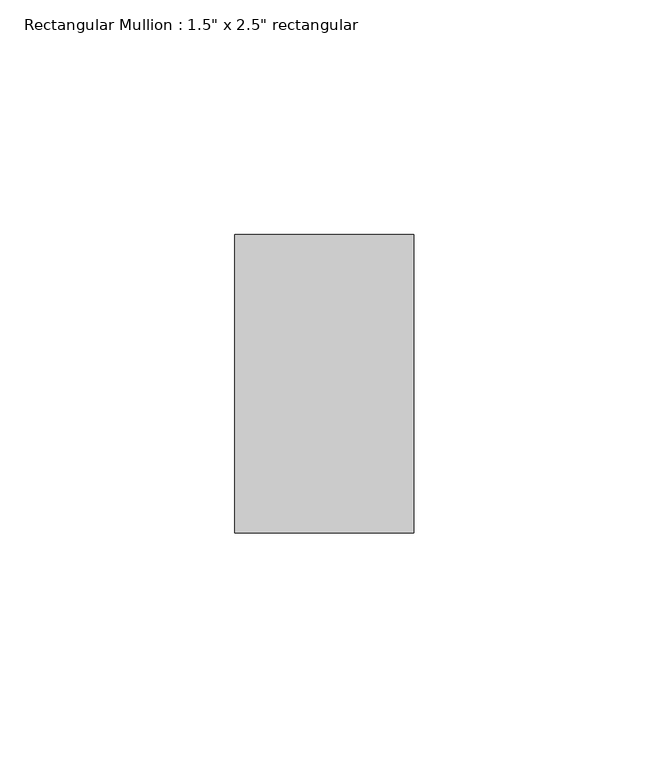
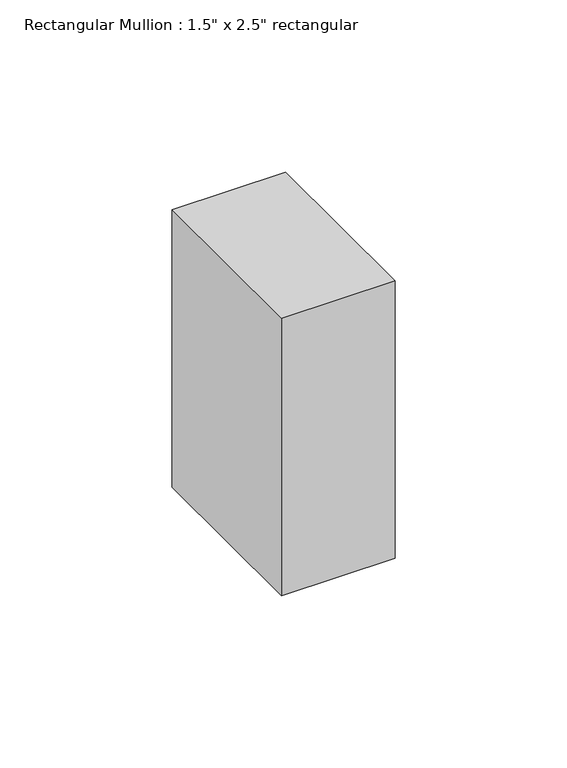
"""IFC4 building model written with IfcOpenShell, lengths in millimetres: member geometry."""

import ifcopenshell
import ifcopenshell.guid

model = None  # the IFC model being written
_history = None  # IfcOwnerHistory: only IFC2X3 demands one
_inside = {}  # id of a spatial element -> (the spatial element, [elements in it])
_under = {}  # id of a project, library or spatial element -> (it, [spatial elements below it])
_declared = {}  # id of a project -> (the project, [libraries it declares])
_typed = {}  # id of a type object -> (the type object, [elements of that type])
_made_of = {}  # id of a material, layer set ... -> (it, [elements and type objects made of it])


def new_model(schema):
    """Start an empty IFC model of exactly this schema.

    Asked for "IFC4X3", IfcOpenShell would pick the latest addendum, in which some entities
    have other attributes; the version numbers below select the first issue.
    IFC2X3 requires an IfcOwnerHistory on every rooted entity: one is made here for all.
    """
    global model, _history
    if schema == "IFC4X3":
        model = ifcopenshell.file(schema_version=(4, 3, 0, 0))
    else:
        model = ifcopenshell.file(schema=schema)
    _inside.clear()
    _under.clear()
    _declared.clear()
    _typed.clear()
    _made_of.clear()
    _history = None
    if model.schema == "IFC2X3":
        org = make("IfcOrganization", Name="unknown")
        user = make(
            "IfcPersonAndOrganization",
            ThePerson=make("IfcPerson", FamilyName="unknown"),
            TheOrganization=org,
        )
        app = make(
            "IfcApplication",
            ApplicationDeveloper=org,
            Version="unknown",
            ApplicationFullName="unknown",
            ApplicationIdentifier="unknown",
        )
        _history = make(
            "IfcOwnerHistory",
            OwningUser=user,
            OwningApplication=app,
            ChangeAction="ADDED",
            CreationDate=0,
        )
    return model


def make(cls, **values):
    """One entity of the class cls with the attributes given. An attribute that is None is left unset."""
    return model.create_entity(
        cls, **{name: value for name, value in values.items() if value is not None}
    )


def rooted(cls, **values):
    """An entity with a GlobalId (a new one), such as an element, a storey or a relation."""
    return make(cls, GlobalId=ifcopenshell.guid.new(), OwnerHistory=_history, **values)


def si_unit(unit_type, name, prefix=None):
    """IfcSIUnit, for example si_unit("LENGTHUNIT", "METRE", prefix="MILLI")."""
    return make("IfcSIUnit", UnitType=unit_type, Prefix=prefix, Name=name)


def assignment(units):
    """IfcUnitAssignment: the units of a project."""
    return None if units is None else make("IfcUnitAssignment", Units=units)


def point(xyz):
    """IfcCartesianPoint."""
    return None if xyz is None else make("IfcCartesianPoint", Coordinates=xyz)


def direction(xyz):
    """IfcDirection."""
    return None if xyz is None else make("IfcDirection", DirectionRatios=xyz)


def frame(location, z_axis=None, x_axis=None):
    """IfcAxis2Placement3D, a coordinate frame: its origin and axes. An axis left out is left unset."""
    return make(
        "IfcAxis2Placement3D",
        Location=point(location),
        Axis=direction(z_axis),
        RefDirection=direction(x_axis),
    )


def origin():
    """The frame at (0, 0, 0) with its axes left unset."""
    return frame((0.0, 0.0, 0.0))


def place(relative_to, where):
    """IfcLocalPlacement: puts the frame where relative to a parent placement (None: the world)."""
    return make(
        "IfcLocalPlacement", PlacementRelTo=relative_to, RelativePlacement=where
    )


def context(
    kind, dimensions, precision=None, world=None, true_north=None, identifier=None
):
    """IfcGeometricRepresentationContext, for example the 3D "Model" context."""
    return make(
        "IfcGeometricRepresentationContext",
        ContextIdentifier=identifier,
        ContextType=kind,
        CoordinateSpaceDimension=dimensions,
        Precision=precision,
        WorldCoordinateSystem=world,
        TrueNorth=true_north,
    )


def project(units=None, contexts=None):
    """IfcProject with its units and contexts."""
    return rooted(
        "IfcProject",
        Name="project",
        RepresentationContexts=contexts,
        UnitsInContext=assignment(units),
    )


def spatial(cls, under=None, at=None, **own):
    """A site, building, storey or space (cls), placed at a placement, below another one or the project."""
    s = rooted(cls, ObjectPlacement=at, **own)
    if under is not None:
        _under.setdefault(under.id(), (under, []))[1].append(s)
    return s


def polyline(points):
    """IfcPolyline through the points."""
    return make("IfcPolyline", Points=[point(p) for p in points])


def outline(outer, holes=None, kind="AREA"):
    """IfcArbitraryClosedProfileDef: a profile drawn as a closed curve; with holes, ...WithVoids."""
    if holes is None:
        return make("IfcArbitraryClosedProfileDef", ProfileType=kind, OuterCurve=outer)
    return make(
        "IfcArbitraryProfileDefWithVoids",
        ProfileType=kind,
        OuterCurve=outer,
        InnerCurves=holes,
    )


def extrude(swept, where, along, depth):
    """IfcExtrudedAreaSolid: the profile swept, set in the frame where, extruded along a direction by depth."""
    return make(
        "IfcExtrudedAreaSolid",
        SweptArea=swept,
        Position=where,
        ExtrudedDirection=direction(along),
        Depth=depth,
    )


def shape(context_of_items, identifier, shape_type, items):
    """IfcShapeRepresentation: the items that make up one representation, for example the "Body"."""
    return make(
        "IfcShapeRepresentation",
        ContextOfItems=context_of_items,
        RepresentationIdentifier=identifier,
        RepresentationType=shape_type,
        Items=items,
    )


def source(mapping_origin, context_of_items, identifier, shape_type, items):
    """IfcRepresentationMap: a shape defined once, which mapped items show again and again."""
    return make(
        "IfcRepresentationMap",
        MappingOrigin=mapping_origin,
        MappedRepresentation=shape(context_of_items, identifier, shape_type, items),
    )


def transform(
    local_origin,
    x_axis=None,
    y_axis=None,
    z_axis=None,
    scale=None,
    scale2=None,
    scale3=None,
    uniform=True,
):
    """IfcCartesianTransformationOperator3D, or its non-uniform kind. x_axis, y_axis, z_axis: its Axis1, 2, 3."""
    if uniform:
        return make(
            "IfcCartesianTransformationOperator3D",
            Axis1=direction(x_axis),
            Axis2=direction(y_axis),
            LocalOrigin=point(local_origin),
            Scale=scale,
            Axis3=direction(z_axis),
        )
    return make(
        "IfcCartesianTransformationOperator3DnonUniform",
        Axis1=direction(x_axis),
        Axis2=direction(y_axis),
        LocalOrigin=point(local_origin),
        Scale=scale,
        Axis3=direction(z_axis),
        Scale2=scale2,
        Scale3=scale3,
    )


def mapped(mapping_source, mapping_target):
    """IfcMappedItem: shows the shape of a source again, moved by a transform."""
    return make(
        "IfcMappedItem", MappingSource=mapping_source, MappingTarget=mapping_target
    )


def made_of(thing, what):
    """Note that an element or type object is made of a material, layer set ...; save() writes the relation."""
    if what is not None:
        _made_of.setdefault(what.id(), (what, []))[1].append(thing)
    return thing


def element(
    cls,
    number,
    at=None,
    inside=None,
    cuts=None,
    type_object=None,
    material=None,
    context=None,
    identifier="Body",
    shape_type=None,
    held_by="IfcProductDefinitionShape",
    body=None,
    shapes=None,
    **own,
):
    """One element of the class cls, such as IfcWall. Its Tag is "e" and its number.

    at: its placement. inside: the storey or other place that contains it. cuts: it is an
    opening in that element (IfcRelVoidsElement). A single representation is given by context,
    identifier, shape_type and body (its items); several are given by shapes. held_by: the class
    of the entity that holds the representations. save() writes the other relations.
    """
    e = rooted(cls, Tag="e%d" % number, ObjectPlacement=at, **own)
    if body is not None:
        shapes = [shape(context, identifier, shape_type, body)]
    if shapes is not None:
        e.Representation = make(held_by, Representations=shapes)
    if inside is not None:
        _inside.setdefault(inside.id(), (inside, []))[1].append(e)
    if cuts is not None:
        rooted(
            "IfcRelVoidsElement", RelatingBuildingElement=cuts, RelatedOpeningElement=e
        )
    if type_object is not None:
        _typed.setdefault(type_object.id(), (type_object, []))[1].append(e)
    return made_of(e, material)


def aggregate(whole, parts):
    """IfcRelAggregates: a whole, such as a stair, and the parts it consists of."""
    return rooted("IfcRelAggregates", RelatingObject=whole, RelatedObjects=parts)


def save(model, path):
    """Write the relations noted so far, then the file.

    IfcRelAggregates (storeys below a building ...), IfcRelContainedInSpatialStructure (elements
    in a storey), IfcRelDefinesByType, IfcRelAssociatesMaterial and IfcRelDeclares: one each for
    every whole, place, type object, material and project.
    """
    for whole, parts in _under.values():
        aggregate(whole, parts)
    for where, things in _inside.values():
        rooted(
            "IfcRelContainedInSpatialStructure",
            RelatedElements=things,
            RelatingStructure=where,
        )
    for kind, things in _typed.values():
        rooted("IfcRelDefinesByType", RelatedObjects=things, RelatingType=kind)
    for what, things in _made_of.values():
        rooted("IfcRelAssociatesMaterial", RelatedObjects=things, RelatingMaterial=what)
    for by, libraries in _declared.values():
        rooted("IfcRelDeclares", RelatingContext=by, RelatedDefinitions=libraries)
    model.write(path)


def member_4e80e9f6(model_context):
    return source(origin(), model_context, "Body", "SweptSolid", [
        extrude(outline(polyline([(19.05, 31.75), (19.05, -31.75), (-19.05, -31.75), (-19.05, 31.75), (19.05, 31.75)])), frame((0.0, 0.0, -98.3039978), z_axis=(0.0, 0.0, 1.0), x_axis=(1.0, 0.0, 0.0)), (0.0, 0.0, 1.0), 98.3039978),
    ])


if __name__ == "__main__":
    model = new_model("IFC4")
    model_context = context("Model", 3, world=origin())
    ifc_project = project(units=[si_unit("LENGTHUNIT", "METRE", prefix="MILLI")], contexts=[model_context])
    site = spatial("IfcSite", under=ifc_project)
    building = spatial("IfcBuilding", under=site)
    placement = place(None, origin())
    member_shape = member_4e80e9f6(model_context)
    element("IfcMember", 1, ObjectType="Rectangular Mullion : 1.5\" x 2.5\" rectangular", at=placement, inside=building, context=model_context, shape_type="MappedRepresentation", body=[
        mapped(member_shape, transform((0.0, 0.0, 0.0), x_axis=(1.0, 0.0, 0.0), y_axis=(0.0, 1.0, 0.0), z_axis=(0.0, 0.0, 1.0))),
    ])
    save(model, "model.ifc")
